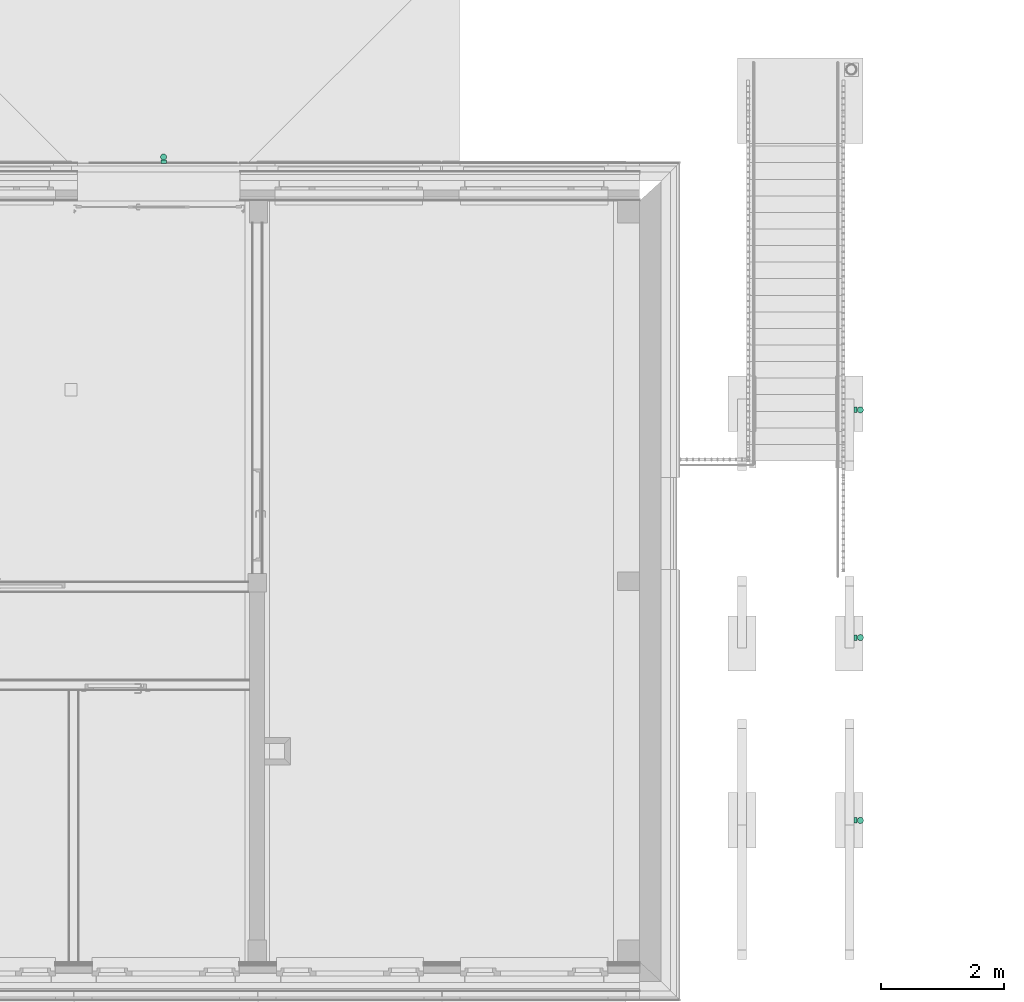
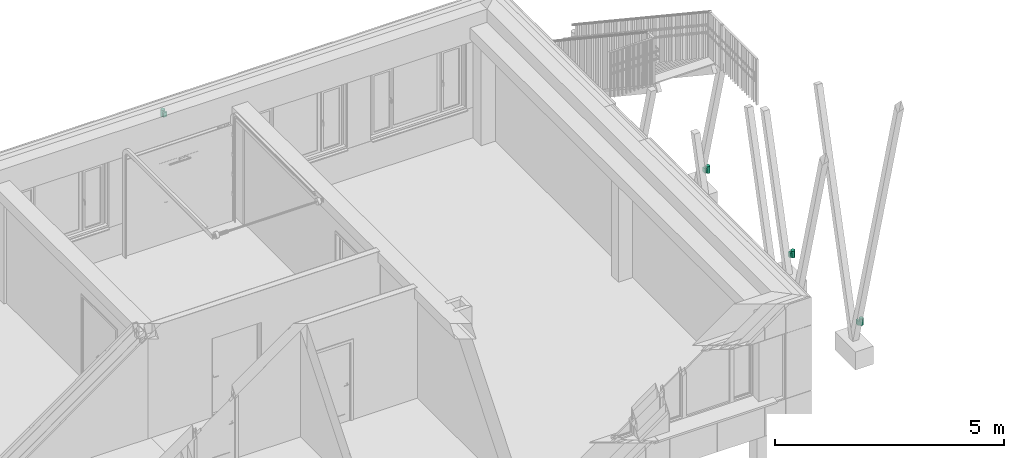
# One storey, part 182 of 418: 8 flow terminals.
"""IFC2X3 building model written with IfcOpenShell, lengths in millimetres."""

from ifc_helpers import new_model, entity, si_unit, converted_unit, derived_unit, money_unit, point, direction, frame, frame_2d, origin_with_axes, place, context, subcontext, project, spatial, polyline, circle_curve, parameter, trimmed, segment, composite_curve, outline, extrude, material, type_object, element, save


model = new_model("IFC2X3")

# Units and contexts
model_context = context("Model", 3, precision=0.01, world=origin_with_axes(), true_north=direction((0.0, 1.0)))
body_context = subcontext(model_context, "Body", "Model", "MODEL_VIEW")
ifc_project = project(units=[si_unit("LENGTHUNIT", "METRE", prefix="MILLI"), si_unit("AREAUNIT", "SQUARE_METRE"), si_unit("VOLUMEUNIT", "CUBIC_METRE"), converted_unit("PLANEANGLEUNIT", "DEGREE", entity("IfcPlaneAngleMeasure", 0.0174532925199), si_unit("PLANEANGLEUNIT", "RADIAN"), dimensions=[0, 0, 0, 0, 0, 0, 0]), si_unit("SOLIDANGLEUNIT", "STERADIAN"), money_unit("EUR"), converted_unit("TIMEUNIT", "Year", entity("IfcTimeMeasure", 31556926.0), si_unit("TIMEUNIT", "SECOND"), dimensions=[0, 0, 1, 0, 0, 0, 0]), si_unit("MASSUNIT", "GRAM", prefix="KILO"), si_unit("THERMODYNAMICTEMPERATUREUNIT", "DEGREE_CELSIUS"), si_unit("LUMINOUSINTENSITYUNIT", "LUMEN"), si_unit("ENERGYUNIT", "JOULE", prefix="MEGA"), derived_unit("THERMALCONDUCTANCEUNIT", [(si_unit("POWERUNIT", "WATT"), 1), (si_unit("LENGTHUNIT", "METRE"), -1), (si_unit("THERMODYNAMICTEMPERATUREUNIT", "KELVIN"), -1)]), derived_unit("SPECIFICHEATCAPACITYUNIT", [(si_unit("ENERGYUNIT", "JOULE"), 1), (si_unit("MASSUNIT", "GRAM", prefix="KILO"), -1), (si_unit("THERMODYNAMICTEMPERATUREUNIT", "KELVIN"), -1)]), derived_unit("MASSDENSITYUNIT", [(si_unit("MASSUNIT", "GRAM", prefix="KILO"), 1), (si_unit("VOLUMEUNIT", "CUBIC_METRE"), -1)])], contexts=[model_context])

# Site, building, storey
site_placement = place(None, origin_with_axes())
site = spatial("IfcSite", under=ifc_project, at=site_placement, Name="Paldiski mnt 245/1, Tallinn, Harjumaa", CompositionType="COMPLEX")
building_placement = place(site_placement, origin_with_axes())
building = spatial("IfcBuilding", under=site, at=building_placement, Name="RKAS Hoone üldnimetus (kasutust iseloomustav) -> IFC Project Manager -> SOLIBRI", CompositionType="ELEMENT")
storey_placement = place(building_placement, origin_with_axes())
storey = spatial("IfcBuildingStorey", under=building, at=storey_placement, Name="Esimene korrus", CompositionType="ELEMENT", Elevation=0.0)

# Flow terminals
ifc_material = material(Name="RAL7016")
light_fixture_type_1 = type_object("IfcLightFixtureType", Name="RAL7016 180", PredefinedType="NOTDEFINED")
for number, where, z_axis, x_axis in (
    (1, (-13685.0000282, -3514.62459567, -59.6721052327), (0.0, 0.0, 1.0), (1.0, 0.0, 0.0)),
    (2, (-13685.0000282, -10203.6972266, -59.6721052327), (0.0, 0.0, 1.0), (1.0, 0.0, 0.0)),
    (3, (-13685.0000282, -7225.64467268, -59.6721052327), (0.0, 0.0, 1.0), (1.0, 0.0, 0.0)),
):
    element("IfcFlowTerminal", number, at=place(storey_placement, frame(where, z_axis=z_axis, x_axis=x_axis)), inside=storey, type_object=light_fixture_type_1, material=ifc_material, Name="Välisvalgusti", ObjectType="Light Fixture", context=body_context, shape_type="SweptSolid", body=[
        extrude(outline(composite_curve([segment(trimmed(circle_curve(frame_2d((50.0, 0.0), x_axis=(-1.0, 0.0)), 50.0), [point((0.0, 0.0)), parameter(0.0)], [point((100.0, 0.0)), parameter(180.0)], True, "CARTESIAN"), True, "CONTINUOUS"), segment(trimmed(circle_curve(frame_2d((50.0, 0.0), x_axis=(1.0, 0.0)), 50.0), [point((100.0, 0.0)), parameter(0.0)], [point((0.0, 0.0)), parameter(180.0)], True, "CARTESIAN"), True, "CONTINUOUS")], self_intersect=False)), frame((0.0, 0.0, -180.0), z_axis=(0.0, 0.0, 1.0), x_axis=(1.0, 0.0, 0.0)), (0.0, 0.0, 1.0), 180.0),
    ])
flow_terminal_1_placement = place(storey_placement, frame((-24986.0, 555.000025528, 2920.0), z_axis=(0.0, 0.0, 1.0), x_axis=(1.0, 0.0, 0.0)))
element("IfcFlowTerminal", 4, at=flow_terminal_1_placement, inside=storey, type_object=light_fixture_type_1, material=ifc_material, Name="Välisvalgusti", ObjectType="Light Fixture", context=body_context, shape_type="SweptSolid", body=[
    extrude(outline(composite_curve([segment(trimmed(circle_curve(frame_2d((0.0, 50.0), x_axis=(0.0, -1.0)), 50.0), [point((0.0, 0.0)), parameter(0.0)], [point((0.0, 100.0)), parameter(180.0)], True, "CARTESIAN"), True, "CONTINUOUS"), segment(trimmed(circle_curve(frame_2d((0.0, 50.0), x_axis=(0.0, 1.0)), 50.0), [point((0.0, 100.0)), parameter(0.0)], [point((0.0, 0.0)), parameter(180.0)], True, "CARTESIAN"), True, "CONTINUOUS")], self_intersect=False)), frame((0.0, 0.0, -180.0), z_axis=(0.0, 0.0, 1.0), x_axis=(1.0, 0.0, 0.0)), (0.0, 0.0, 1.0), 180.0),
])
light_fixture_type_2 = type_object("IfcLightFixtureType", Name="RAL7016 120", PredefinedType="NOTDEFINED")
for number, where, z_axis, x_axis in (
    (5, (-13688.0000282, -3559.62459567, -89.6721052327), (0.0, 0.0, 1.0), (1.0, 0.0, 0.0)),
    (6, (-13688.0000282, -10243.6972266, -89.6721052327), (0.0, 0.0, 1.0), (1.0, 0.0, 0.0)),
    (7, (-13688.0000282, -7270.64467268, -89.6721052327), (0.0, 0.0, 1.0), (1.0, 0.0, 0.0)),
):
    element("IfcFlowTerminal", number, at=place(storey_placement, frame(where, z_axis=z_axis, x_axis=x_axis)), inside=storey, type_object=light_fixture_type_2, material=ifc_material, Name="Välisvalgusti", ObjectType="Light Fixture", context=body_context, shape_type="SweptSolid", body=[
        extrude(outline(polyline([(0.0, 0.0), (0.0, 90.0), (-50.0, 90.0), (-50.0, 0.0), (0.0, 0.0)])), frame((0.0, 0.0, -120.0), z_axis=(0.0, 0.0, 1.0), x_axis=(1.0, 0.0, 0.0)), (0.0, 0.0, 1.0), 120.0),
    ])
flow_terminal_2_placement = place(storey_placement, frame((-24941.0, 552.000025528, 2890.0), z_axis=(0.0, 0.0, 1.0), x_axis=(1.0, 0.0, 0.0)))
element("IfcFlowTerminal", 8, at=flow_terminal_2_placement, inside=storey, type_object=light_fixture_type_2, material=ifc_material, Name="Välisvalgusti", ObjectType="Light Fixture", context=body_context, shape_type="SweptSolid", body=[
    extrude(outline(polyline([(0.0, 0.0), (-90.0, 0.0), (-90.0, -50.0), (0.0, -50.0), (0.0, 0.0)])), frame((0.0, 0.0, -120.0), z_axis=(0.0, 0.0, 1.0), x_axis=(1.0, 0.0, 0.0)), (0.0, 0.0, 1.0), 120.0),
])

save(model, "model.ifc")
